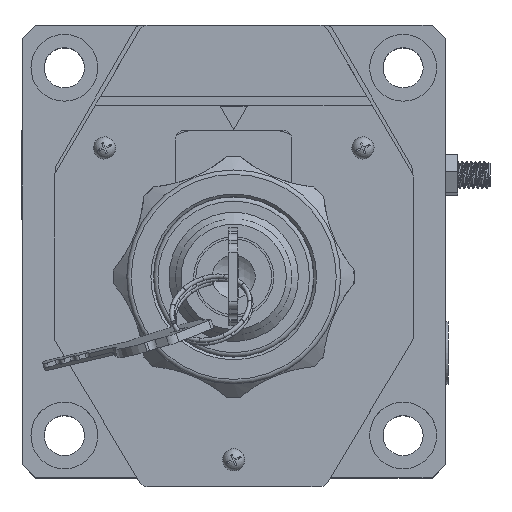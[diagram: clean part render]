
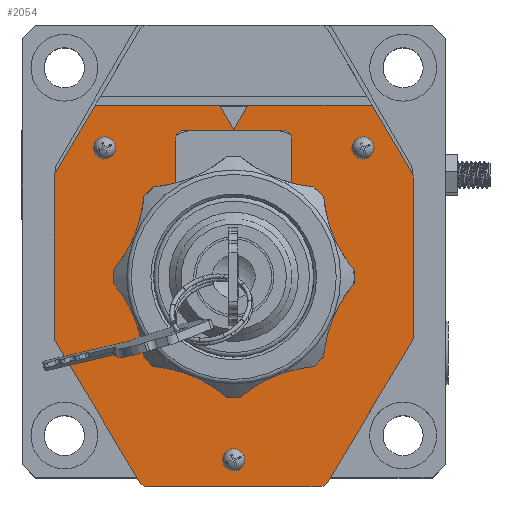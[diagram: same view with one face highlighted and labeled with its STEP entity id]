
A CAD part, top view. The second image highlights one B-rep face of the part: STEP entity #2054.
In plain terms, the highlighted planar face has unit normal (0, 0, 1).
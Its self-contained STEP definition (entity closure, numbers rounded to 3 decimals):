
#982=PLANE('',#18902);
#1520=FACE_BOUND('',#4415,.T.);
#1521=FACE_BOUND('',#4416,.T.);
#1522=FACE_BOUND('',#4417,.T.);
#1523=FACE_BOUND('',#4418,.T.);
#1524=FACE_BOUND('',#4419,.T.);
#2054=ADVANCED_FACE('',(#1520,#1521,#1522,#1523,#1524),#982,.F.);
#4415=EDGE_LOOP('',(#9499));
#4416=EDGE_LOOP('',(#9500));
#4417=EDGE_LOOP('',(#9501));
#4418=EDGE_LOOP('',(#9502,#9503,#9504,#9505,#9506,#9507));
#4419=EDGE_LOOP('',(#9508,#9509,#9510,#9511,#9512,#9513,#9514,#9515,#9516,
#9517,#9518,#9519));
#6274=LINE('',#43276,#7299);
#6275=LINE('',#43280,#7300);
#6276=LINE('',#43284,#7301);
#6277=LINE('',#43285,#7302);
#6278=LINE('',#43288,#7303);
#6279=LINE('',#43290,#7304);
#6280=LINE('',#43292,#7305);
#6281=LINE('',#43296,#7306);
#6282=LINE('',#43300,#7307);
#6283=LINE('',#43304,#7308);
#6284=LINE('',#43308,#7309);
#7299=VECTOR('',#21625,1.);
#7300=VECTOR('',#21628,1.);
#7301=VECTOR('',#21631,1.);
#7302=VECTOR('',#21632,1.);
#7303=VECTOR('',#21633,1.);
#7304=VECTOR('',#21634,1.);
#7305=VECTOR('',#21635,1.);
#7306=VECTOR('',#21638,1.);
#7307=VECTOR('',#21641,1.);
#7308=VECTOR('',#21644,1.);
#7309=VECTOR('',#21647,1.);
#9499=ORIENTED_EDGE('',*,*,#15618,.T.);
#9500=ORIENTED_EDGE('',*,*,#15619,.T.);
#9501=ORIENTED_EDGE('',*,*,#15620,.T.);
#9502=ORIENTED_EDGE('',*,*,#15621,.T.);
#9503=ORIENTED_EDGE('',*,*,#15622,.T.);
#9504=ORIENTED_EDGE('',*,*,#15623,.T.);
#9505=ORIENTED_EDGE('',*,*,#15624,.T.);
#9506=ORIENTED_EDGE('',*,*,#15625,.T.);
#9507=ORIENTED_EDGE('',*,*,#15626,.T.);
#9508=ORIENTED_EDGE('',*,*,#15627,.F.);
#9509=ORIENTED_EDGE('',*,*,#15628,.T.);
#9510=ORIENTED_EDGE('',*,*,#15629,.T.);
#9511=ORIENTED_EDGE('',*,*,#15630,.T.);
#9512=ORIENTED_EDGE('',*,*,#15631,.T.);
#9513=ORIENTED_EDGE('',*,*,#15632,.T.);
#9514=ORIENTED_EDGE('',*,*,#15633,.T.);
#9515=ORIENTED_EDGE('',*,*,#15634,.T.);
#9516=ORIENTED_EDGE('',*,*,#15635,.T.);
#9517=ORIENTED_EDGE('',*,*,#15636,.T.);
#9518=ORIENTED_EDGE('',*,*,#15637,.T.);
#9519=ORIENTED_EDGE('',*,*,#15638,.T.);
#13659=VERTEX_POINT('',#43268);
#13660=VERTEX_POINT('',#43270);
#13661=VERTEX_POINT('',#43272);
#13662=VERTEX_POINT('',#43274);
#13663=VERTEX_POINT('',#43275);
#13664=VERTEX_POINT('',#43277);
#13665=VERTEX_POINT('',#43279);
#13666=VERTEX_POINT('',#43281);
#13667=VERTEX_POINT('',#43283);
#13668=VERTEX_POINT('',#43286);
#13669=VERTEX_POINT('',#43287);
#13670=VERTEX_POINT('',#43289);
#13671=VERTEX_POINT('',#43291);
#13672=VERTEX_POINT('',#43293);
#13673=VERTEX_POINT('',#43295);
#13674=VERTEX_POINT('',#43297);
#13675=VERTEX_POINT('',#43299);
#13676=VERTEX_POINT('',#43301);
#13677=VERTEX_POINT('',#43303);
#13678=VERTEX_POINT('',#43305);
#13679=VERTEX_POINT('',#43307);
#15618=EDGE_CURVE('',#13659,#13659,#17694,.T.);
#15619=EDGE_CURVE('',#13660,#13660,#17695,.T.);
#15620=EDGE_CURVE('',#13661,#13661,#17696,.T.);
#15621=EDGE_CURVE('',#13662,#13663,#17697,.T.);
#15622=EDGE_CURVE('',#13663,#13664,#6274,.T.);
#15623=EDGE_CURVE('',#13664,#13665,#17698,.T.);
#15624=EDGE_CURVE('',#13665,#13666,#6275,.T.);
#15625=EDGE_CURVE('',#13666,#13667,#17699,.T.);
#15626=EDGE_CURVE('',#13667,#13662,#6276,.T.);
#15627=EDGE_CURVE('',#13668,#13669,#6277,.T.);
#15628=EDGE_CURVE('',#13668,#13670,#6278,.T.);
#15629=EDGE_CURVE('',#13670,#13671,#6279,.T.);
#15630=EDGE_CURVE('',#13671,#13672,#6280,.T.);
#15631=EDGE_CURVE('',#13672,#13673,#17700,.T.);
#15632=EDGE_CURVE('',#13673,#13674,#6281,.T.);
#15633=EDGE_CURVE('',#13674,#13675,#17701,.T.);
#15634=EDGE_CURVE('',#13675,#13676,#6282,.T.);
#15635=EDGE_CURVE('',#13676,#13677,#17702,.T.);
#15636=EDGE_CURVE('',#13677,#13678,#6283,.T.);
#15637=EDGE_CURVE('',#13678,#13679,#17703,.T.);
#15638=EDGE_CURVE('',#13679,#13669,#6284,.T.);
#17694=CIRCLE('',#18892,1.5);
#17695=CIRCLE('',#18893,1.5);
#17696=CIRCLE('',#18894,1.5);
#17697=CIRCLE('',#18895,20.5);
#17698=CIRCLE('',#18896,2.);
#17699=CIRCLE('',#18897,2.);
#17700=CIRCLE('',#18898,2.);
#17701=CIRCLE('',#18899,2.);
#17702=CIRCLE('',#18900,2.);
#17703=CIRCLE('',#18901,2.);
#18892=AXIS2_PLACEMENT_3D('',#43267,#21617,#21618);
#18893=AXIS2_PLACEMENT_3D('',#43269,#21619,#21620);
#18894=AXIS2_PLACEMENT_3D('',#43271,#21621,#21622);
#18895=AXIS2_PLACEMENT_3D('',#43273,#21623,#21624);
#18896=AXIS2_PLACEMENT_3D('',#43278,#21626,#21627);
#18897=AXIS2_PLACEMENT_3D('',#43282,#21629,#21630);
#18898=AXIS2_PLACEMENT_3D('',#43294,#21636,#21637);
#18899=AXIS2_PLACEMENT_3D('',#43298,#21639,#21640);
#18900=AXIS2_PLACEMENT_3D('',#43302,#21642,#21643);
#18901=AXIS2_PLACEMENT_3D('',#43306,#21645,#21646);
#18902=AXIS2_PLACEMENT_3D('',#43309,#21648,#21649);
#21617=DIRECTION('',(0.,0.,-1.));
#21618=DIRECTION('',(1.,0.,0.));
#21619=DIRECTION('',(0.,0.,-1.));
#21620=DIRECTION('',(1.,0.,0.));
#21621=DIRECTION('',(0.,0.,-1.));
#21622=DIRECTION('',(1.,0.,0.));
#21623=DIRECTION('',(0.,0.,-1.));
#21624=DIRECTION('',(1.,0.,0.));
#21625=DIRECTION('',(0.,1.,0.));
#21626=DIRECTION('',(0.,0.,-1.));
#21627=DIRECTION('',(-1.,0.,0.));
#21628=DIRECTION('',(1.,0.,0.));
#21629=DIRECTION('',(0.,0.,-1.));
#21630=DIRECTION('',(-1.,0.,0.));
#21631=DIRECTION('',(0.,-1.,0.));
#21632=DIRECTION('',(1.,0.,0.));
#21633=DIRECTION('',(-0.508,-0.861,0.));
#21634=DIRECTION('',(0.,-1.,0.));
#21635=DIRECTION('',(0.514,-0.858,0.));
#21636=DIRECTION('',(0.,0.,1.));
#21637=DIRECTION('',(1.,0.,0.));
#21638=DIRECTION('',(1.,0.,0.));
#21639=DIRECTION('',(0.,0.,1.));
#21640=DIRECTION('',(1.,0.,0.));
#21641=DIRECTION('',(0.514,0.858,0.));
#21642=DIRECTION('',(0.,0.,1.));
#21643=DIRECTION('',(1.,0.,0.));
#21644=DIRECTION('',(0.,1.,0.));
#21645=DIRECTION('',(0.,0.,1.));
#21646=DIRECTION('',(1.,0.,0.));
#21647=DIRECTION('',(-0.508,0.861,0.));
#21648=DIRECTION('',(0.,0.,-1.));
#21649=DIRECTION('',(1.,0.,0.));
#43267=CARTESIAN_POINT('',(5.331,121.077,8.));
#43268=CARTESIAN_POINT('',(6.831,121.077,8.));
#43269=CARTESIAN_POINT('',(34.322,51.086,8.));
#43270=CARTESIAN_POINT('',(35.822,51.086,8.));
#43271=CARTESIAN_POINT('',(63.314,121.077,8.));
#43272=CARTESIAN_POINT('',(64.814,121.077,8.));
#43273=CARTESIAN_POINT('',(34.322,92.086,8.));
#43274=CARTESIAN_POINT('',(47.322,107.937,8.));
#43275=CARTESIAN_POINT('',(21.322,107.937,8.));
#43276=CARTESIAN_POINT('',(21.322,125.086,8.));
#43277=CARTESIAN_POINT('',(21.322,123.086,8.));
#43278=CARTESIAN_POINT('',(23.322,123.086,8.));
#43279=CARTESIAN_POINT('',(23.322,125.086,8.));
#43280=CARTESIAN_POINT('',(47.322,125.086,8.));
#43281=CARTESIAN_POINT('',(45.322,125.086,8.));
#43282=CARTESIAN_POINT('',(45.322,123.086,8.));
#43283=CARTESIAN_POINT('',(47.322,123.086,8.));
#43284=CARTESIAN_POINT('',(47.322,107.937,8.));
#43285=CARTESIAN_POINT('',(2.717,130.674,8.));
#43286=CARTESIAN_POINT('',(3.262,130.674,8.));
#43287=CARTESIAN_POINT('',(65.382,130.674,8.));
#43288=CARTESIAN_POINT('',(-5.928,115.086,8.));
#43289=CARTESIAN_POINT('',(-5.928,115.086,8.));
#43290=CARTESIAN_POINT('',(-5.928,78.086,8.));
#43291=CARTESIAN_POINT('',(-5.928,78.086,8.));
#43292=CARTESIAN_POINT('',(13.24,46.059,8.));
#43293=CARTESIAN_POINT('',(13.24,46.059,8.));
#43294=CARTESIAN_POINT('',(14.956,47.086,8.));
#43295=CARTESIAN_POINT('',(14.956,45.086,8.));
#43296=CARTESIAN_POINT('',(53.688,45.086,8.));
#43297=CARTESIAN_POINT('',(53.688,45.086,8.));
#43298=CARTESIAN_POINT('',(53.688,47.086,8.));
#43299=CARTESIAN_POINT('',(55.405,46.059,8.));
#43300=CARTESIAN_POINT('',(74.288,77.612,8.));
#43301=CARTESIAN_POINT('',(74.288,77.612,8.));
#43302=CARTESIAN_POINT('',(72.572,78.639,8.));
#43303=CARTESIAN_POINT('',(74.572,78.639,8.));
#43304=CARTESIAN_POINT('',(74.572,114.54,8.));
#43305=CARTESIAN_POINT('',(74.572,114.54,8.));
#43306=CARTESIAN_POINT('',(72.572,114.54,8.));
#43307=CARTESIAN_POINT('',(74.295,115.556,8.));
#43308=CARTESIAN_POINT('',(55.403,147.602,8.));
#43309=CARTESIAN_POINT('',(14.965,146.586,8.));
